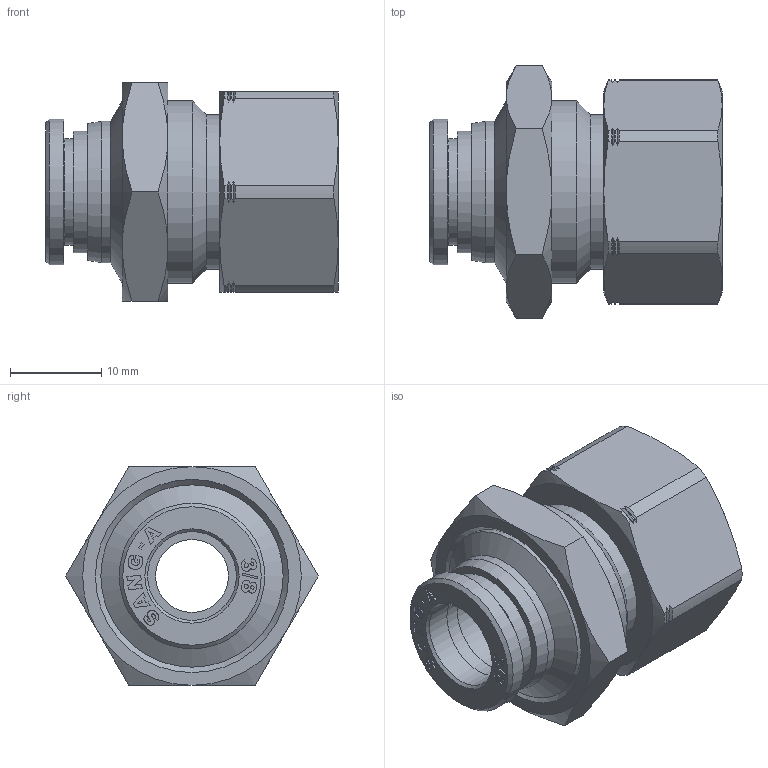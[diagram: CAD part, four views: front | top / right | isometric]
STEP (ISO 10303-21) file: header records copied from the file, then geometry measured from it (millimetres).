
FILE_DESCRIPTION((''),'2;1');
FILE_NAME('C:\Users\user0117\Desktop\김진일\G-FITTING INCH\3-8\PDF\G-FITTING INCH (STEP)\GPMF 3_8-R02.stp','2020-04-20T11:08:51',('user0117'),(''),'Autodesk Inventor 2013','Autodesk Inventor 2013','');
FILE_SCHEMA(('AUTOMOTIVE_DESIGN { 1 0 10303 214 1 1 1 1 }'));
Length unit declared in the file: millimetre
Products named in the file (6): GPMF 3_8-R02; GPMF BODY 3_8-R02(BRASS); G-COLLAR 3-8C(ROUND); COLLAR G3-8C; SLEEVE G3-8R; NMM NUT 10
Assembly tree (5 placements, depth 3):
  GPMF 3_8-R02
    GPMF BODY 3_8-R02(BRASS)
    G-COLLAR 3-8C(ROUND)
      COLLAR G3-8C
      SLEEVE G3-8R
    NMM NUT 10
Bounding box: 32.1 x 27.71 x 24 mm (x, y, z)
Volume: 8304.5 mm3; surface area: 5173.4 mm2
Topology: 4 solids, 4 shells, 416 faces, 1142 edges, 751 vertices
Faces by surface type: plane 290, cone 58, bspline 35, cylinder 33
Full cylindrical faces by diameter (mm): 8 x1, 9.75 x3, 11.7 x1, 13.3 x1, 15.5 x1, 16 x1, 17 x1, 20 x2
Entity records: 13337 total; most frequent: CARTESIAN_POINT 3108, ORIENTED_EDGE 2234, DIRECTION 1846, EDGE_CURVE 1117, VECTOR 840, LINE 840, VERTEX_POINT 747, AXIS2_PLACEMENT_3D 503
